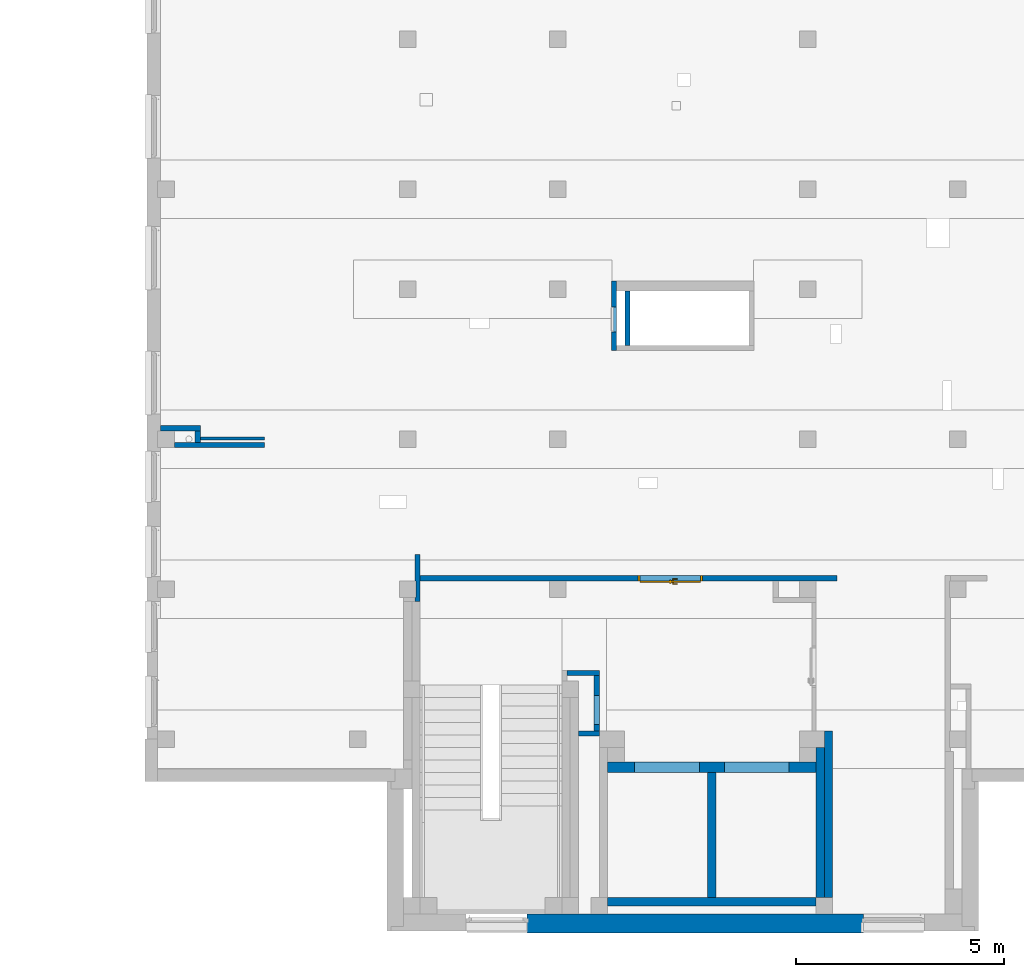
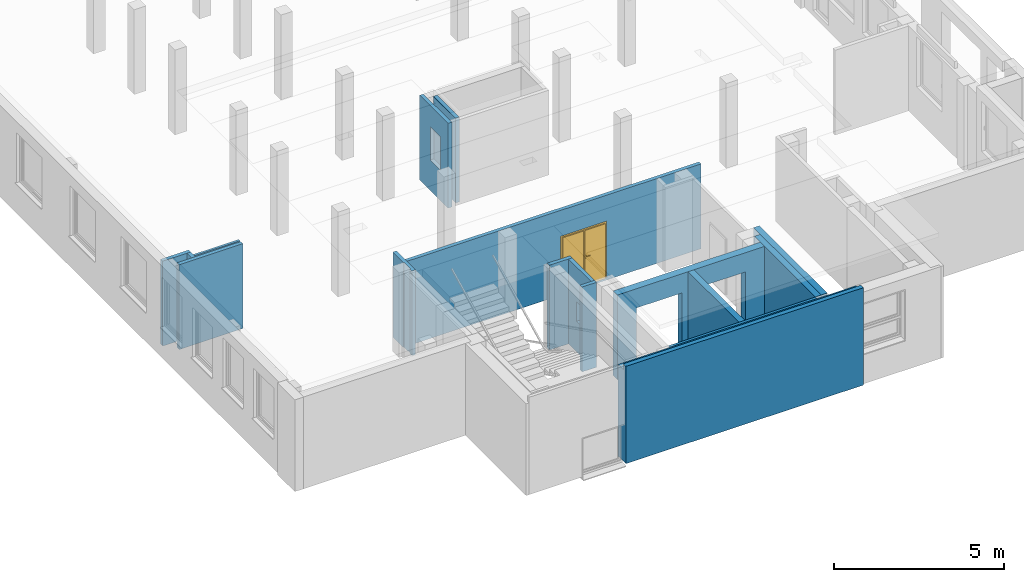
# One storey, part 4 of 27: 17 walls, 1 door, 5 openings.
"""IFC4 building model written with IfcOpenShell, lengths in metres."""

from ifc_helpers import new_model, entity, si_unit, converted_unit, derived_unit, frame, frame_2d, origin, origin_with_axes, place, context, subcontext, project, spatial, polyline, rectangle, outline, extrude, clip, bounded_halfspace, closed_shell, open_shell, surface_model, source, transform, mapped, material, layer, layer_set, layer_usage, type_object, element, fill, save


model = new_model("IFC4")

# Units and contexts
model_context = context("Model", 3, precision=1e-05, world=origin())
body_context = subcontext(model_context, "Body", "Model", "MODEL_VIEW")
ifc_project = project(units=[si_unit("LENGTHUNIT", "METRE"), si_unit("AREAUNIT", "SQUARE_METRE"), si_unit("VOLUMEUNIT", "CUBIC_METRE"), si_unit("MASSUNIT", "GRAM", prefix="KILO"), converted_unit("PLANEANGLEUNIT", "DEGREE", entity("IfcPlaneAngleMeasure", 0.0174532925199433), si_unit("PLANEANGLEUNIT", "RADIAN"), dimensions=[0, 0, 0, 0, 0, 0, 0]), derived_unit("THERMALTRANSMITTANCEUNIT", [(si_unit("POWERUNIT", "WATT"), 1), (si_unit("THERMODYNAMICTEMPERATUREUNIT", "KELVIN"), -1), (si_unit("LENGTHUNIT", "METRE"), -2)]), derived_unit("VOLUMETRICFLOWRATEUNIT", [(si_unit("LENGTHUNIT", "METRE"), 3), (converted_unit("TIMEUNIT", "hour", entity("IfcTimeMeasure", 3600.0), si_unit("TIMEUNIT", "SECOND"), dimensions=[0, 0, 1, 0, 0, 0, 0]), -1), (si_unit("LENGTHUNIT", "METRE"), -1)])], contexts=[model_context])

# Site, building, storey
site_placement = place(None, origin())
site = spatial("IfcSite", under=ifc_project, at=site_placement, Name="3. ASŘ", CompositionType="ELEMENT")
building_placement = place(site_placement, origin())
building = spatial("IfcBuilding", under=site, at=building_placement, Name="Pavilon C", CompositionType="ELEMENT")
storey_placement = place(building_placement, frame((0.0, 0.0, 10.5)))
storey = spatial("IfcBuildingStorey", under=building, at=storey_placement, Name="Půdorys 4.NP", CompositionType="ELEMENT", Elevation=10.5)

# Wall
ifc_material_1 = material(Name="ZELEZOBETONOVÁ KCE")
ifc_layer_1 = layer(ifc_material_1, 0.2)
ifc_layer_set_1 = layer_set([ifc_layer_1])
ifc_layer_usage_1 = layer_usage(ifc_layer_set_1, "AXIS2", "POSITIVE", 0.0)
wall_1_placement = place(storey_placement, frame((38.15, -3.8, -0.1), z_axis=(0.0, 0.0, 1.0), x_axis=(0.0, 1.0, 0.0)))
element("IfcWall", 1, at=wall_1_placement, inside=storey, material=ifc_layer_usage_1, Name="ZELEZOBETONOVÁ KCE", context=body_context, shape_type="SweptSolid", body=[
    extrude(rectangle(XDim=3.0, YDim=0.2, at=frame_2d((1.5, 0.1), x_axis=(1.0, 0.0))), origin_with_axes(), (0.0, 0.0, 1.0), 3.05),
])

# Wall, openings
ifc_material_2 = material(Name="ZDIVO Z CDm")
ifc_layer_2 = layer(ifc_material_2, 0.25)
ifc_layer_set_2 = layer_set([ifc_layer_2])
ifc_layer_usage_2 = layer_usage(ifc_layer_set_2, "AXIS2", "POSITIVE", 0.0)
wall_2_placement = place(storey_placement, frame((40.55, -0.550000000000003, -0.1), z_axis=(0.0, 0.0, 1.0), x_axis=(-1.0, 0.0, 0.0)))
wall_2 = element("IfcWall", 2, at=wall_2_placement, inside=storey, material=ifc_layer_usage_2, Name="ZDIVO Z CDm", context=body_context, shape_type="SweptSolid", body=[
    extrude(rectangle(XDim=5.0, YDim=0.25, at=frame_2d((2.5, 0.125), x_axis=(1.0, 0.0))), origin_with_axes(), (0.0, 0.0, 1.0), 3.05),
])
opening_1_placement = place(wall_2_placement, frame((0.65, 0.0, 0.1), z_axis=(0.0, 1.0, 0.0), x_axis=(0.0, 0.0, 1.0)))
element("IfcOpeningElement", 3, at=opening_1_placement, cuts=wall_2, Name="Dveřní otvor", ObjectType="Opening", context=body_context, shape_type="SweptSolid", body=[
    extrude(outline(polyline([(0.0, 1.55), (2.26, 1.55), (2.26, 0.0), (0.0, 0.0), (0.0, 1.55)])), origin_with_axes(), (0.0, 0.0, 1.0), 0.25),
])
opening_2_placement = place(wall_2_placement, frame((2.8, 0.0, 0.1), z_axis=(0.0, 1.0, 0.0), x_axis=(0.0, 0.0, 1.0)))
element("IfcOpeningElement", 4, at=opening_2_placement, cuts=wall_2, Name="Dveřní otvor", ObjectType="Opening", context=body_context, shape_type="SweptSolid", body=[
    extrude(outline(polyline([(0.0, 1.55), (2.26, 1.55), (2.26, 0.0), (0.0, 0.0), (0.0, 1.55)])), origin_with_axes(), (0.0, 0.0, 1.0), 0.25),
])

# Wall
ifc_material_3 = material(Name="ZDIVO Z CDm")
ifc_layer_3 = layer(ifc_material_3, 0.125)
ifc_layer_set_3 = layer_set([ifc_layer_3])
ifc_layer_usage_3 = layer_usage(ifc_layer_set_3, "AXIS2", "POSITIVE", 0.0)
wall_3_placement = place(storey_placement, frame((35.35, 1.6500125, -0.1), z_axis=(0.0, 0.0, 1.0), x_axis=(-1.0, 0.0, 0.0)))
element("IfcWall", 5, at=wall_3_placement, inside=storey, material=ifc_layer_usage_3, Name="ZDIVO Z CDm", context=body_context, shape_type="SweptSolid", body=[
    extrude(rectangle(XDim=0.775000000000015, YDim=0.125, at=frame_2d((0.387500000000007, 0.0625), x_axis=(1.0, 0.0))), origin_with_axes(), (0.0, 0.0, 1.0), 3.05),
])

# Wall, opening
ifc_material_4 = material(Name="ZDIVO Z CDm")
ifc_layer_4 = layer(ifc_material_4, 0.125)
ifc_layer_set_4 = layer_set([ifc_layer_4])
ifc_layer_usage_4 = layer_usage(ifc_layer_set_4, "AXIS2", "POSITIVE", 0.0)
wall_4_placement = place(storey_placement, frame((35.35, 0.199999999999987, -0.1), z_axis=(0.0, 0.0, 1.0), x_axis=(0.0, 1.0, 0.0)))
wall_4 = element("IfcWall", 6, at=wall_4_placement, inside=storey, material=ifc_layer_usage_4, Name="ZDIVO Z CDm", context=body_context, shape_type="SweptSolid", body=[
    extrude(rectangle(XDim=1.32501250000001, YDim=0.125, at=frame_2d((0.662506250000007, 0.0625), x_axis=(1.0, 0.0))), origin_with_axes(), (0.0, 0.0, 1.0), 3.05),
])
opening_3_placement = place(wall_4_placement, frame((0.15, 0.0, 1.1), z_axis=(0.0, 1.0, 0.0), x_axis=(0.0, 0.0, 1.0)))
element("IfcOpeningElement", 7, at=opening_3_placement, cuts=wall_4, Name="Okenní otvor", ObjectType="Opening", context=body_context, shape_type="SweptSolid", body=[
    extrude(outline(polyline([(0.0, 0.7), (0.7, 0.7), (0.7, 0.0), (0.0, 0.0), (0.0, 0.7)])), origin_with_axes(), (0.0, 0.0, 1.0), 0.125),
])

# Walls
ifc_material_5 = material(Name="ZDIVO Z CDm")
ifc_layer_5 = layer(ifc_material_5, 0.125)
ifc_layer_set_5 = layer_set([ifc_layer_5])
ifc_layer_usage_5 = layer_usage(ifc_layer_set_5, "AXIS2", "POSITIVE", 0.0)
wall_5_placement = place(storey_placement, frame((35.35, 0.199999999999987, -0.1), z_axis=(0.0, 0.0, 1.0), x_axis=(-1.0, 1.13686837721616e-16, 0.0)))
element("IfcWall", 8, at=wall_5_placement, inside=storey, material=ifc_layer_usage_5, Name="ZDIVO Z CDm", context=body_context, shape_type="SweptSolid", body=[
    extrude(rectangle(XDim=0.5, YDim=0.125, at=frame_2d((0.25, 0.0625), x_axis=(1.0, 0.0))), origin_with_axes(), (0.0, 0.0, 1.0), 3.05),
])
ifc_material_6 = material(Name="ZDIVO Z CDm")
ifc_layer_6 = layer(ifc_material_6, 0.125)
ifc_layer_set_6 = layer_set([ifc_layer_6])
ifc_layer_usage_6 = layer_usage(ifc_layer_set_6, "AXIS2", "POSITIVE", 0.0)
wall_6_placement = place(storey_placement, frame((31.05, 3.3, -0.1), z_axis=(0.0, 0.0, 1.0), x_axis=(0.0, 1.0, 0.0)))
element("IfcWall", 9, at=wall_6_placement, inside=storey, material=ifc_layer_usage_6, Name="ZDIVO Z CDm", context=body_context, shape_type="SweptSolid", body=[
    extrude(outline(polyline([(0.0, -0.125), (1.12499999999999, -0.125), (1.12499999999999, 0.0), (0.5, 0.0), (0.5, -0.025), (0.1, -0.025), (0.1, 0.0), (0.0, 0.0), (0.0, -0.125)])), frame((0.0, 0.125, 0.0), z_axis=(0.0, 0.0, 1.0), x_axis=(1.0, 0.0, 0.0)), (0.0, 0.0, 1.0), 3.05),
])

# Wall, opening, door
ifc_material_7 = material(Name="ZDIVO Z CDm")
ifc_layer_7 = layer(ifc_material_7, 0.125)
ifc_layer_set_7 = layer_set([ifc_layer_7])
ifc_layer_usage_7 = layer_usage(ifc_layer_set_7, "AXIS2", "POSITIVE", 0.0)
wall_7_placement = place(storey_placement, frame((31.05, 3.79999999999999, -0.1)))
wall_7 = element("IfcWall", 10, at=wall_7_placement, inside=storey, material=ifc_layer_usage_7, Name="ZDIVO Z CDm", context=body_context, shape_type="SweptSolid", body=[
    extrude(rectangle(XDim=10.0, YDim=0.125, at=frame_2d((5.0, 0.0625000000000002), x_axis=(1.0, 0.0))), origin_with_axes(), (0.0, 0.0, 1.0), 3.05),
])
opening_4_placement = place(wall_7_placement, frame((5.225, 0.0, 0.1), z_axis=(0.0, 1.0, 0.0), x_axis=(0.0, 0.0, 1.0)))
opening_4 = element("IfcOpeningElement", 11, at=opening_4_placement, cuts=wall_7, Name="Dveřní otvor", ObjectType="Opening", context=body_context, shape_type="SweptSolid", body=[
    extrude(outline(polyline([(0.0, 1.55), (2.02, 1.55), (2.02, 0.0), (0.0, 0.0), (0.0, 1.55)])), origin_with_axes(), (0.0, 0.0, 1.0), 0.125),
])
door_type = type_object("IfcDoorType", Name="D501", OperationType="NOTDEFINED", ParameterTakesPrecedence=False, PredefinedType="DOOR")
shared_shape = source(origin_with_axes(), body_context, "Body", "SurfaceModel", [
    surface_model("IfcShellBasedSurfaceModel", [(0.0, 0.125, 2.02), (0.0, 0.125, -7.65404249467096e-18), (0.05, 0.125, -7.65404249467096e-18), (0.05, 0.125, 2.02), (0.0, 0.0, 7.65404249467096e-18), (0.0, 2.41584530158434e-16, 2.02), (0.05, 2.41584530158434e-16, 2.02), (0.05, 0.0, 7.65404249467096e-18)], [closed_shell([[[0, 1, 2, 3]], [[4, 5, 6, 7]], [[1, 0, 5, 4]], [[2, 1, 4, 7]], [[3, 2, 7, 6]], [[0, 3, 6, 5]]], orient=[[False], [False], [False], [False], [False], [False]])]),
    surface_model("IfcShellBasedSurfaceModel", [(1.5, 0.125, 2.02), (1.5, 0.125, -7.65404249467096e-18), (1.55, 0.125, -7.65404249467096e-18), (1.55, 0.125, 2.02), (1.5, 0.0, 7.65404249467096e-18), (1.5, 2.41584530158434e-16, 2.02), (1.55, 2.41584530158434e-16, 2.02), (1.55, 0.0, 7.65404249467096e-18)], [closed_shell([[[0, 1, 2, 3]], [[4, 5, 6, 7]], [[1, 0, 5, 4]], [[2, 1, 4, 7]], [[3, 2, 7, 6]], [[0, 3, 6, 5]]], orient=[[False], [False], [False], [False], [False], [False]])]),
    surface_model("IfcShellBasedSurfaceModel", [(0.05, 0.125, 2.02), (0.05, 0.125, 1.97), (1.5, 0.125, 1.97), (1.5, 0.125, 2.02), (0.05, 2.41584530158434e-16, 1.97), (0.05, 2.41584530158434e-16, 2.02), (1.5, 2.41584530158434e-16, 2.02), (1.5, 2.41584530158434e-16, 1.97)], [closed_shell([[[0, 1, 2, 3]], [[4, 5, 6, 7]], [[1, 0, 5, 4]], [[2, 1, 4, 7]], [[3, 2, 7, 6]], [[0, 3, 6, 5]]], orient=[[False], [False], [False], [False], [False], [False]])]),
    surface_model("IfcShellBasedSurfaceModel", [(0.05, 0.165, 1.97), (0.05, 0.165, -1.25526296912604e-17), (0.7745, 0.165, -1.25526296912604e-17), (0.7745, 0.165, 1.97), (0.05, 0.125, -7.65404249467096e-18), (0.05, 0.125, 1.97), (0.7745, 0.125, 1.97), (0.7745, 0.125, -7.65404249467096e-18)], [closed_shell([[[0, 1, 2, 3]], [[4, 5, 6, 7]], [[1, 0, 5, 4]], [[2, 1, 4, 7]], [[3, 2, 7, 6]], [[0, 3, 6, 5]]], orient=[[False], [False], [False], [False], [False], [False]])]),
    surface_model("IfcShellBasedSurfaceModel", [(0.7545, 0.165, 1.97), (0.7945, 0.165, 1.97), (0.7945, 0.165, -1.25526296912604e-17), (0.7545, 0.165, -1.25526296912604e-17), (0.7545, 0.185, -1.50019232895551e-17), (0.7945, 0.185, -1.50019232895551e-17), (0.7945, 0.185, 1.97), (0.7545, 0.185, 1.97)], [closed_shell([[[0, 1, 2, 3]], [[4, 5, 6, 7]], [[3, 4, 7, 0]], [[2, 5, 4, 3]], [[1, 6, 5, 2]], [[0, 7, 6, 1]]], orient=[[False], [False], [False], [False], [False], [False]])]),
    surface_model("IfcShellBasedSurfaceModel", [(0.733315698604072, 0.125, 0.93625), (0.737, 0.125, 0.95), (0.733315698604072, 0.125, 0.96375), (0.72325, 0.125, 0.973815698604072), (0.7095, 0.125, 0.9775), (0.69575, 0.125, 0.973815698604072), (0.685684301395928, 0.125, 0.96375), (0.682, 0.125, 0.95), (0.685684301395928, 0.125, 0.93625), (0.69575, 0.125, 0.926184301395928), (0.7095, 0.125, 0.9225), (0.72325, 0.125, 0.926184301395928), (0.737, 0.1125, 0.95), (0.733315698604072, 0.1125, 0.93625), (0.72325, 0.1125, 0.926184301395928), (0.7095, 0.1125, 0.9225), (0.69575, 0.1125, 0.926184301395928), (0.685684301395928, 0.1125, 0.93625), (0.682, 0.1125, 0.95), (0.685684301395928, 0.1125, 0.96375), (0.69575, 0.1125, 0.973815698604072), (0.7095, 0.1125, 0.9775), (0.72325, 0.1125, 0.973815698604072), (0.733315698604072, 0.1125, 0.96375)], [closed_shell([[[0, 1, 2, 3, 4, 5, 6, 7, 8, 9, 10, 11]], [[12, 13, 14, 15, 16, 17, 18, 19, 20, 21, 22, 23]], [[1, 0, 13, 12]], [[2, 1, 12, 23]], [[3, 2, 23, 22]], [[4, 3, 22, 21]], [[5, 4, 21, 20]], [[6, 5, 20, 19]], [[7, 6, 19, 18]], [[8, 7, 18, 17]], [[9, 8, 17, 16]], [[10, 9, 16, 15]], [[11, 10, 15, 14]], [[0, 11, 14, 13]]], orient=[[False], [False], [False], [False], [False], [False], [False], [False], [False], [False], [False], [False], [False], [False]])]),
    surface_model("IfcShellBasedSurfaceModel", [(0.733315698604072, 0.125, 1.03625), (0.737, 0.125, 1.05), (0.733315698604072, 0.125, 1.06375), (0.72325, 0.125, 1.07381569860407), (0.7095, 0.125, 1.0775), (0.69575, 0.125, 1.07381569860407), (0.685684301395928, 0.125, 1.06375), (0.682, 0.125, 1.05), (0.685684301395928, 0.125, 1.03625), (0.69575, 0.125, 1.02618430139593), (0.7095, 0.125, 1.0225), (0.72325, 0.125, 1.02618430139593), (0.737, 0.1125, 1.05), (0.733315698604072, 0.1125, 1.03625), (0.72325, 0.1125, 1.02618430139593), (0.7095, 0.1125, 1.0225), (0.69575, 0.1125, 1.02618430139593), (0.685684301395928, 0.1125, 1.03625), (0.682, 0.1125, 1.05), (0.685684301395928, 0.1125, 1.06375), (0.69575, 0.1125, 1.07381569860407), (0.7095, 0.1125, 1.0775), (0.72325, 0.1125, 1.07381569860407), (0.733315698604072, 0.1125, 1.06375)], [closed_shell([[[0, 1, 2, 3, 4, 5, 6, 7, 8, 9, 10, 11]], [[12, 13, 14, 15, 16, 17, 18, 19, 20, 21, 22, 23]], [[1, 0, 13, 12]], [[2, 1, 12, 23]], [[3, 2, 23, 22]], [[4, 3, 22, 21]], [[5, 4, 21, 20]], [[6, 5, 20, 19]], [[7, 6, 19, 18]], [[8, 7, 18, 17]], [[9, 8, 17, 16]], [[10, 9, 16, 15]], [[11, 10, 15, 14]], [[0, 11, 14, 13]]], orient=[[False], [False], [False], [False], [False], [False], [False], [False], [False], [False], [False], [False], [False], [False]])]),
    surface_model("IfcShellBasedSurfaceModel", [(0.7095, 0.125, 1.06), (0.7045, 0.125, 1.05866025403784), (0.700839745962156, 0.125, 1.055), (0.6995, 0.125, 1.05), (0.700839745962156, 0.125, 1.045), (0.7045, 0.125, 1.04133974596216), (0.7095, 0.125, 1.04), (0.7145, 0.125, 1.04133974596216), (0.718160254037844, 0.125, 1.045), (0.7195, 0.125, 1.05), (0.718160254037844, 0.125, 1.055), (0.7145, 0.125, 1.05866025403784), (0.7145, 0.0800000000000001, 1.05866025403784), (0.7095, 0.0850000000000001, 1.06), (0.718160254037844, 0.0763397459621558, 1.055), (0.7195, 0.0750000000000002, 1.05), (0.718160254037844, 0.0763397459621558, 1.045), (0.7145, 0.0800000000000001, 1.04133974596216), (0.7095, 0.0850000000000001, 1.04), (0.7045, 0.0900000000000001, 1.04133974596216), (0.700839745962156, 0.0936602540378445, 1.045), (0.6995, 0.0950000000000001, 1.05), (0.700839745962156, 0.0936602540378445, 1.055), (0.7045, 0.0900000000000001, 1.05866025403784), (0.5945, 0.0800000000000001, 1.05866025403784), (0.5945, 0.0850000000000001, 1.06), (0.5945, 0.0763397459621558, 1.055), (0.5945, 0.0750000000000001, 1.05), (0.5945, 0.0763397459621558, 1.045), (0.5945, 0.0800000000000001, 1.04133974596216), (0.5945, 0.0850000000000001, 1.04), (0.5945, 0.0900000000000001, 1.04133974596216), (0.5945, 0.0936602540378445, 1.045), (0.5945, 0.0950000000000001, 1.05), (0.5945, 0.0936602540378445, 1.055), (0.5945, 0.0900000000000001, 1.05866025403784)], [open_shell([[[0, 1, 2, 3, 4, 5, 6, 7, 8, 9, 10, 11]], [[0, 11, 12, 13]], [[11, 10, 14, 12]], [[10, 9, 15, 14]], [[9, 8, 16, 15]], [[8, 7, 17, 16]], [[7, 6, 18, 17]], [[6, 5, 19, 18]], [[5, 4, 20, 19]], [[4, 3, 21, 20]], [[3, 2, 22, 21]], [[2, 1, 23, 22]], [[1, 0, 13, 23]], [[13, 12, 24, 25]], [[12, 14, 26, 24]], [[14, 15, 27, 26]], [[15, 16, 28, 27]], [[16, 17, 29, 28]], [[17, 18, 30, 29]], [[18, 19, 31, 30]], [[19, 20, 32, 31]], [[20, 21, 33, 32]], [[21, 22, 34, 33]], [[22, 23, 35, 34]], [[23, 13, 25, 35]]], orient=[[False], [False], [False], [False], [False], [False], [False], [False], [False], [False], [False], [False], [False], [False], [False], [False], [False], [False], [False], [False], [False], [False], [False], [False], [False]])]),
    surface_model("IfcShellBasedSurfaceModel", [(0.733315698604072, 0.165, 0.93625), (0.72325, 0.165, 0.926184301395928), (0.7095, 0.165, 0.9225), (0.69575, 0.165, 0.926184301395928), (0.685684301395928, 0.165, 0.93625), (0.682, 0.165, 0.95), (0.685684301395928, 0.165, 0.96375), (0.69575, 0.165, 0.973815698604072), (0.7095, 0.165, 0.9775), (0.72325, 0.165, 0.973815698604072), (0.733315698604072, 0.165, 0.96375), (0.737, 0.165, 0.95), (0.737, 0.1775, 0.95), (0.733315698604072, 0.1775, 0.96375), (0.72325, 0.1775, 0.973815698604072), (0.7095, 0.1775, 0.9775), (0.69575, 0.1775, 0.973815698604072), (0.685684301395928, 0.1775, 0.96375), (0.682, 0.1775, 0.95), (0.685684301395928, 0.1775, 0.93625), (0.69575, 0.1775, 0.926184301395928), (0.7095, 0.1775, 0.9225), (0.72325, 0.1775, 0.926184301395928), (0.733315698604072, 0.1775, 0.93625)], [closed_shell([[[0, 1, 2, 3, 4, 5, 6, 7, 8, 9, 10, 11]], [[12, 13, 14, 15, 16, 17, 18, 19, 20, 21, 22, 23]], [[11, 12, 23, 0]], [[10, 13, 12, 11]], [[9, 14, 13, 10]], [[8, 15, 14, 9]], [[7, 16, 15, 8]], [[6, 17, 16, 7]], [[5, 18, 17, 6]], [[4, 19, 18, 5]], [[3, 20, 19, 4]], [[2, 21, 20, 3]], [[1, 22, 21, 2]], [[0, 23, 22, 1]]], orient=[[False], [False], [False], [False], [False], [False], [False], [False], [False], [False], [False], [False], [False], [False]])]),
    surface_model("IfcShellBasedSurfaceModel", [(0.733315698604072, 0.165, 1.03625), (0.72325, 0.165, 1.02618430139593), (0.7095, 0.165, 1.0225), (0.69575, 0.165, 1.02618430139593), (0.685684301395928, 0.165, 1.03625), (0.682, 0.165, 1.05), (0.685684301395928, 0.165, 1.06375), (0.69575, 0.165, 1.07381569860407), (0.7095, 0.165, 1.0775), (0.72325, 0.165, 1.07381569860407), (0.733315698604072, 0.165, 1.06375), (0.737, 0.165, 1.05), (0.737, 0.1775, 1.05), (0.733315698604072, 0.1775, 1.06375), (0.72325, 0.1775, 1.07381569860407), (0.7095, 0.1775, 1.0775), (0.69575, 0.1775, 1.07381569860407), (0.685684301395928, 0.1775, 1.06375), (0.682, 0.1775, 1.05), (0.685684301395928, 0.1775, 1.03625), (0.69575, 0.1775, 1.02618430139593), (0.7095, 0.1775, 1.0225), (0.72325, 0.1775, 1.02618430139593), (0.733315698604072, 0.1775, 1.03625)], [closed_shell([[[0, 1, 2, 3, 4, 5, 6, 7, 8, 9, 10, 11]], [[12, 13, 14, 15, 16, 17, 18, 19, 20, 21, 22, 23]], [[11, 12, 23, 0]], [[10, 13, 12, 11]], [[9, 14, 13, 10]], [[8, 15, 14, 9]], [[7, 16, 15, 8]], [[6, 17, 16, 7]], [[5, 18, 17, 6]], [[4, 19, 18, 5]], [[3, 20, 19, 4]], [[2, 21, 20, 3]], [[1, 22, 21, 2]], [[0, 23, 22, 1]]], orient=[[False], [False], [False], [False], [False], [False], [False], [False], [False], [False], [False], [False], [False], [False]])]),
    surface_model("IfcShellBasedSurfaceModel", [(0.7095, 0.165, 1.06), (0.7145, 0.165, 1.05866025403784), (0.718160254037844, 0.165, 1.055), (0.7195, 0.165, 1.05), (0.718160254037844, 0.165, 1.045), (0.7145, 0.165, 1.04133974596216), (0.7095, 0.165, 1.04), (0.7045, 0.165, 1.04133974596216), (0.700839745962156, 0.165, 1.045), (0.6995, 0.165, 1.05), (0.700839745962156, 0.165, 1.055), (0.7045, 0.165, 1.05866025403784), (0.7095, 0.205, 1.06), (0.7145, 0.21, 1.05866025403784), (0.718160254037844, 0.213660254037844, 1.055), (0.7195, 0.215, 1.05), (0.718160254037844, 0.213660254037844, 1.045), (0.7145, 0.21, 1.04133974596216), (0.7095, 0.205, 1.04), (0.7045, 0.2, 1.04133974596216), (0.700839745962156, 0.196339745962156, 1.045), (0.6995, 0.195, 1.05), (0.700839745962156, 0.196339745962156, 1.055), (0.7045, 0.2, 1.05866025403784), (0.5945, 0.205, 1.06), (0.5945, 0.21, 1.05866025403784), (0.5945, 0.213660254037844, 1.055), (0.5945, 0.215, 1.05), (0.5945, 0.213660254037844, 1.045), (0.5945, 0.21, 1.04133974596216), (0.5945, 0.205, 1.04), (0.5945, 0.2, 1.04133974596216), (0.5945, 0.196339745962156, 1.045), (0.5945, 0.195, 1.05), (0.5945, 0.196339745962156, 1.055), (0.5945, 0.2, 1.05866025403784)], [open_shell([[[0, 1, 2, 3, 4, 5, 6, 7, 8, 9, 10, 11]], [[0, 12, 13, 1]], [[1, 13, 14, 2]], [[2, 14, 15, 3]], [[3, 15, 16, 4]], [[4, 16, 17, 5]], [[5, 17, 18, 6]], [[6, 18, 19, 7]], [[7, 19, 20, 8]], [[8, 20, 21, 9]], [[9, 21, 22, 10]], [[10, 22, 23, 11]], [[11, 23, 12, 0]], [[12, 24, 25, 13]], [[13, 25, 26, 14]], [[14, 26, 27, 15]], [[15, 27, 28, 16]], [[16, 28, 29, 17]], [[17, 29, 30, 18]], [[18, 30, 31, 19]], [[19, 31, 32, 20]], [[20, 32, 33, 21]], [[21, 33, 34, 22]], [[22, 34, 35, 23]], [[23, 35, 24, 12]]], orient=[[False], [False], [False], [False], [False], [False], [False], [False], [False], [False], [False], [False], [False], [False], [False], [False], [False], [False], [False], [False], [False], [False], [False], [False], [False]])]),
    surface_model("IfcShellBasedSurfaceModel", [(0.7755, 0.165, 1.97), (0.7755, 0.165, -1.25526296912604e-17), (1.5, 0.165, -1.25526296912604e-17), (1.5, 0.165, 1.97), (0.7755, 0.125, -7.65404249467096e-18), (0.7755, 0.125, 1.97), (1.5, 0.125, 1.97), (1.5, 0.125, -7.65404249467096e-18)], [closed_shell([[[0, 1, 2, 3]], [[4, 5, 6, 7]], [[1, 0, 5, 4]], [[2, 1, 4, 7]], [[3, 2, 7, 6]], [[0, 3, 6, 5]]], orient=[[False], [False], [False], [False], [False], [False]])]),
    surface_model("IfcShellBasedSurfaceModel", [(0.7555, 0.125, 1.97), (0.7555, 0.125, -7.65404249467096e-18), (0.7955, 0.125, -7.65404249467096e-18), (0.7955, 0.125, 1.97), (0.7555, 0.105, -5.20474889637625e-18), (0.7555, 0.105, 1.97), (0.7955, 0.105, 1.97), (0.7955, 0.105, -5.20474889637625e-18)], [closed_shell([[[0, 1, 2, 3]], [[4, 5, 6, 7]], [[1, 0, 5, 4]], [[2, 1, 4, 7]], [[3, 2, 7, 6]], [[0, 3, 6, 5]]], orient=[[False], [False], [False], [False], [False], [False]])]),
])
door_placement = place(opening_4_placement, frame((0.0, 1.55, 0.125), z_axis=(1.0, 0.0, 0.0), x_axis=(0.0, -1.0, 1.22464679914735e-16)))
door = element("IfcDoor", 12, at=door_placement, inside=storey, type_object=door_type, Name="D501", OverallHeight=2.02, OverallWidth=1.55, context=body_context, shape_type="MappedRepresentation", body=[
    mapped(shared_shape, transform((0.0, 0.0, 0.0), x_axis=(1.0, 0.0, 0.0), y_axis=(0.0, 1.0, 0.0), z_axis=(0.0, 0.0, 1.0), scale=1.0)),
])
fill(opening_4, door)

# Walls
ifc_material_8 = material(Name="ZELEZOBETONOVÁ KCE")
ifc_layer_8 = layer(ifc_material_8, 0.2)
ifc_layer_set_8 = layer_set([ifc_layer_8])
ifc_layer_usage_8 = layer_usage(ifc_layer_set_8, "AXIS2", "POSITIVE", 0.0)
wall_8_placement = place(storey_placement, frame((40.55, -0.200000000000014, -0.1), z_axis=(0.0, 0.0, 1.0), x_axis=(0.0, -1.0, 0.0)))
element("IfcWall", 13, at=wall_8_placement, inside=storey, material=ifc_layer_usage_8, Name="ZELEZOBETONOVÁ KCE", context=body_context, shape_type="SweptSolid", body=[
    extrude(rectangle(XDim=3.6, YDim=0.2, at=frame_2d((1.8, 0.1), x_axis=(1.0, 0.0))), origin_with_axes(), (0.0, 0.0, 1.0), 3.05),
])
ifc_material_9 = material(Name="ZELEZOBETONOVÁ KCE")
ifc_layer_9 = layer(ifc_material_9, 0.2)
ifc_layer_set_9 = layer_set([ifc_layer_9])
ifc_layer_usage_9 = layer_usage(ifc_layer_set_9, "AXIS2", "POSITIVE", 0.0)
wall_9_placement = place(storey_placement, frame((40.75, 0.199999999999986, -0.1), z_axis=(0.0, 0.0, 1.0), x_axis=(0.0, -1.0, 0.0)))
element("IfcWall", 14, at=wall_9_placement, inside=storey, material=ifc_layer_usage_9, Name="ZELEZOBETONOVÁ KCE", context=body_context, shape_type="SweptSolid", body=[
    extrude(rectangle(XDim=4.0, YDim=0.2, at=frame_2d((2.0, 0.1), x_axis=(1.0, 0.0))), origin_with_axes(), (0.0, 0.0, 1.0), 3.05),
])
ifc_material_10 = material(Name="ZELEZOBETONOVÁ KCE")
ifc_layer_10 = layer(ifc_material_10, 0.2)
ifc_layer_set_10 = layer_set([ifc_layer_10])
ifc_layer_usage_10 = layer_usage(ifc_layer_set_10, "AXIS2", "POSITIVE", 0.0)
wall_10_placement = place(storey_placement, frame((40.55, -3.80000000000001, -0.1), z_axis=(0.0, 0.0, 1.0), x_axis=(-1.0, 0.0, 0.0)))
element("IfcWall", 15, at=wall_10_placement, inside=storey, material=ifc_layer_usage_10, Name="ZELEZOBETONOVÁ KCE", context=body_context, shape_type="SweptSolid", body=[
    extrude(rectangle(XDim=5.0, YDim=0.2, at=frame_2d((2.5, 0.1), x_axis=(1.0, 0.0))), origin_with_axes(), (0.0, 0.0, 1.0), 3.05),
])

# Wall, opening
ifc_material_11 = material(Name="ZDIVO Z CDm")
ifc_layer_11 = layer(ifc_material_11, 0.125)
ifc_layer_set_11 = layer_set([ifc_layer_11])
ifc_layer_usage_11 = layer_usage(ifc_layer_set_11, "AXIS2", "POSITIVE", 0.0)
wall_11_placement = place(storey_placement, frame((35.7625, 9.32499999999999, -0.1), z_axis=(0.0, 0.0, 1.0), x_axis=(0.0, 1.0, 0.0)))
wall_11 = element("IfcWall", 16, at=wall_11_placement, inside=storey, material=ifc_layer_usage_11, Name="ZDIVO Z CDm", context=body_context, shape_type="SweptSolid", body=[
    extrude(rectangle(XDim=1.67499999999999, YDim=0.125, at=frame_2d((0.837499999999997, 0.0625), x_axis=(1.0, 0.0))), origin_with_axes(), (0.0, 0.0, 1.0), 3.05),
])
opening_5_placement = place(wall_11_placement, frame((1.04999999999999, 0.125, 1.1), z_axis=(0.0, -1.0, 0.0), x_axis=(0.0, 0.0, 1.0)))
element("IfcOpeningElement", 17, at=opening_5_placement, cuts=wall_11, Name="Okenní otvor", ObjectType="Opening", context=body_context, shape_type="SweptSolid", body=[
    extrude(outline(polyline([(0.0, 0.6), (1.2, 0.6), (1.2, 0.0), (0.0, 0.0), (0.0, 0.6)])), origin_with_axes(), (0.0, 0.0, 1.0), 0.125),
])

# Walls
ifc_material_12 = material(Name="ZDIVO Z CDm")
ifc_layer_12 = layer(ifc_material_12, 0.125)
ifc_layer_set_12 = layer_set([ifc_layer_12])
ifc_layer_usage_12 = layer_usage(ifc_layer_set_12, "AXIS2", "POSITIVE", 0.0)
wall_12_placement = place(storey_placement, frame((35.9625, 10.75, -0.1), z_axis=(0.0, 0.0, 1.0), x_axis=(0.0, -1.0, 0.0)))
element("IfcWall", 18, at=wall_12_placement, inside=storey, material=ifc_layer_usage_12, Name="ZDIVO Z CDm", context=body_context, shape_type="SweptSolid", body=[
    extrude(rectangle(XDim=1.29999999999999, YDim=0.125, at=frame_2d((0.649999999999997, 0.0625), x_axis=(1.0, 0.0))), origin_with_axes(), (0.0, 0.0, 1.0), 3.05),
])
ifc_material_13 = material(Name="EPS")
ifc_layer_13 = layer(ifc_material_13, 0.15)
ifc_material_14 = material(Name="ZELEZOBETONOVÁ KCE")
ifc_layer_14 = layer(ifc_material_14, 0.3)
ifc_layer_set_13 = layer_set([ifc_layer_13, ifc_layer_14])
ifc_layer_usage_13 = layer_usage(ifc_layer_set_13, "AXIS2", "POSITIVE", -0.15)
wall_13_placement = place(storey_placement, frame((33.61, -4.65, -0.1)))
element("IfcWall", 19, at=wall_13_placement, inside=storey, material=ifc_layer_usage_13, Name="ZELEZOBETONOVÁ KCE", context=body_context, shape_type="Clipping", body=[
    clip(extrude(rectangle(XDim=8.08, YDim=0.45, at=frame_2d((4.04, 0.225), x_axis=(1.0, 0.0))), origin_with_axes(), (0.0, 0.0, 1.0), 3.5), bounded_halfspace(frame((4.04, 0.3, 3.3), z_axis=(0.0, 0.0, -1.0), x_axis=(1.0, 0.0, 0.0)), True, origin_with_axes(), polyline([(0.0, 0.15), (8.08, 0.15), (8.08, 0.45), (0.0, 0.45), (0.0, 0.15)]))),
])
ifc_material_15 = material(Name="ZDIVO Z CDm")
ifc_layer_15 = layer(ifc_material_15, 0.125)
ifc_layer_set_14 = layer_set([ifc_layer_15])
ifc_layer_usage_14 = layer_usage(ifc_layer_set_14, "AXIS2", "POSITIVE", 0.0)
wall_14_placement = place(storey_placement, frame((25.15, 7.0, -0.1)))
element("IfcWall", 20, at=wall_14_placement, inside=storey, material=ifc_layer_usage_14, Name="ZDIVO Z CDm", context=body_context, shape_type="SweptSolid", body=[
    extrude(rectangle(XDim=2.17, YDim=0.125, at=frame_2d((1.085, 0.0625), x_axis=(1.0, 0.0))), origin_with_axes(), (0.0, 0.0, 1.0), 3.05),
])
ifc_material_16 = material(Name="ZDIVO Z CDm")
ifc_layer_16 = layer(ifc_material_16, 0.125)
ifc_layer_set_15 = layer_set([ifc_layer_16])
ifc_layer_usage_15 = layer_usage(ifc_layer_set_15, "AXIS2", "POSITIVE", 0.0)
wall_15_placement = place(storey_placement, frame((24.82, 7.4, -0.1)))
element("IfcWall", 21, at=wall_15_placement, inside=storey, material=ifc_layer_usage_15, Name="ZDIVO Z CDm", context=body_context, shape_type="SweptSolid", body=[
    extrude(rectangle(XDim=0.955, YDim=0.125, at=frame_2d((0.4775, 0.0625), x_axis=(1.0, 0.0))), origin_with_axes(), (0.0, 0.0, 1.0), 3.05),
])
ifc_material_17 = material(Name="ZDIVO Z CDm")
ifc_layer_17 = layer(ifc_material_17, 0.125)
ifc_layer_set_16 = layer_set([ifc_layer_17])
ifc_layer_usage_16 = layer_usage(ifc_layer_set_16, "AXIS2", "POSITIVE", 0.0)
wall_16_placement = place(storey_placement, frame((25.65, 7.4, -0.1), z_axis=(0.0, 0.0, 1.0), x_axis=(0.0, -1.0, 0.0)))
element("IfcWall", 22, at=wall_16_placement, inside=storey, material=ifc_layer_usage_16, Name="ZDIVO Z CDm", context=body_context, shape_type="SweptSolid", body=[
    extrude(rectangle(XDim=0.275, YDim=0.125, at=frame_2d((0.1375, 0.0625), x_axis=(1.0, 0.0))), origin_with_axes(), (0.0, 0.0, 1.0), 3.05),
])
ifc_material_18 = material(Name="PÓROBETONOVÉ ZDIVO")
ifc_layer_18 = layer(ifc_material_18, 0.08)
ifc_layer_set_17 = layer_set([ifc_layer_18])
ifc_layer_usage_17 = layer_usage(ifc_layer_set_17, "AXIS2", "POSITIVE", 0.0)
wall_17_placement = place(storey_placement, frame((25.775, 7.175, -0.1)))
element("IfcWall", 23, at=wall_17_placement, inside=storey, material=ifc_layer_usage_17, Name="PÓROBETONOVÉ ZDIVO", context=body_context, shape_type="SweptSolid", body=[
    extrude(rectangle(XDim=1.545, YDim=0.08, at=frame_2d((0.7725, 0.04), x_axis=(1.0, 0.0))), origin_with_axes(), (0.0, 0.0, 1.0), 3.05),
])

save(model, "model.ifc")
